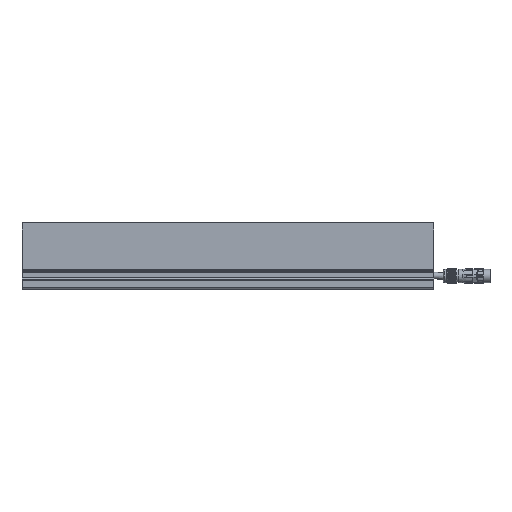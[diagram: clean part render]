
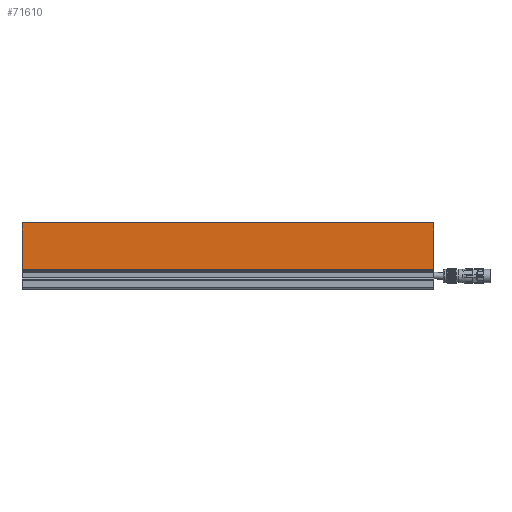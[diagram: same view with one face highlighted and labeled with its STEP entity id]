
A CAD part, top view. The second image highlights one B-rep face of the part: STEP entity #71610.
In plain terms, the highlighted planar face has unit normal (0, 0, 1).
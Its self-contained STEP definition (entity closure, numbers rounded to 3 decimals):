
#3887 = ORIENTED_EDGE ( 'NONE', *, *, #7992, .F. ) ;
#6760 = AXIS2_PLACEMENT_3D ( 'NONE', #66994, #67402, #60744 ) ;
#7992 = EDGE_CURVE ( 'NONE', #43318, #45157, #65839, .T. ) ;
#10274 = CARTESIAN_POINT ( 'NONE',  ( -250., 80.4, 27.5 ) ) ;
#11013 = EDGE_CURVE ( 'NONE', #43318, #16464, #19534, .T. ) ;
#11313 = CARTESIAN_POINT ( 'NONE',  ( 250., 80.4, 27.5 ) ) ;
#11782 = DIRECTION ( 'NONE',  ( 0., 1., 0. ) ) ;
#12031 = CARTESIAN_POINT ( 'NONE',  ( 250., 23.914, 27.5 ) ) ;
#12599 = CARTESIAN_POINT ( 'NONE',  ( -250., 23.914, 27.5 ) ) ;
#13330 = VECTOR ( 'NONE', #11782, 1000. ) ;
#16054 = PLANE ( 'NONE',  #6760 ) ;
#16464 = VERTEX_POINT ( 'NONE', #65192 ) ;
#19534 = LINE ( 'NONE', #12031, #80282 ) ;
#23583 = VECTOR ( 'NONE', #39723, 1000. ) ;
#24676 = ORIENTED_EDGE ( 'NONE', *, *, #11013, .T. ) ;
#25303 = DIRECTION ( 'NONE',  ( 0., 1., 0. ) ) ;
#26407 = VECTOR ( 'NONE', #56911, 1000. ) ;
#28100 = CARTESIAN_POINT ( 'NONE',  ( 250., 23.914, 27.5 ) ) ;
#39723 = DIRECTION ( 'NONE',  ( -1., 0., 0. ) ) ;
#41958 = VERTEX_POINT ( 'NONE', #10274 ) ;
#42088 = FACE_OUTER_BOUND ( 'NONE', #66805, .T. ) ;
#43220 = LINE ( 'NONE', #11313, #26407 ) ;
#43318 = VERTEX_POINT ( 'NONE', #50551 ) ;
#45157 = VERTEX_POINT ( 'NONE', #52105 ) ;
#49513 = LINE ( 'NONE', #12599, #13330 ) ;
#50551 = CARTESIAN_POINT ( 'NONE',  ( 250., 23.914, 27.5 ) ) ;
#52105 = CARTESIAN_POINT ( 'NONE',  ( -250., 23.914, 27.5 ) ) ;
#56911 = DIRECTION ( 'NONE',  ( -1., 0., 0. ) ) ;
#59568 = ORIENTED_EDGE ( 'NONE', *, *, #69903, .T. ) ;
#60744 = DIRECTION ( 'NONE',  ( -1., 0., 0. ) ) ;
#65192 = CARTESIAN_POINT ( 'NONE',  ( 250., 80.4, 27.5 ) ) ;
#65839 = LINE ( 'NONE', #28100, #23583 ) ;
#66805 = EDGE_LOOP ( 'NONE', ( #59568, #77962, #3887, #24676 ) ) ;
#66994 = CARTESIAN_POINT ( 'NONE',  ( 250., 23.914, 27.5 ) ) ;
#67402 = DIRECTION ( 'NONE',  ( 0., 0., 1. ) ) ;
#69903 = EDGE_CURVE ( 'NONE', #16464, #41958, #43220, .T. ) ;
#71610 = ADVANCED_FACE ( 'NONE', ( #42088 ), #16054, .T. ) ;
#71635 = EDGE_CURVE ( 'NONE', #45157, #41958, #49513, .T. ) ;
#77962 = ORIENTED_EDGE ( 'NONE', *, *, #71635, .F. ) ;
#80282 = VECTOR ( 'NONE', #25303, 1000. ) ;
